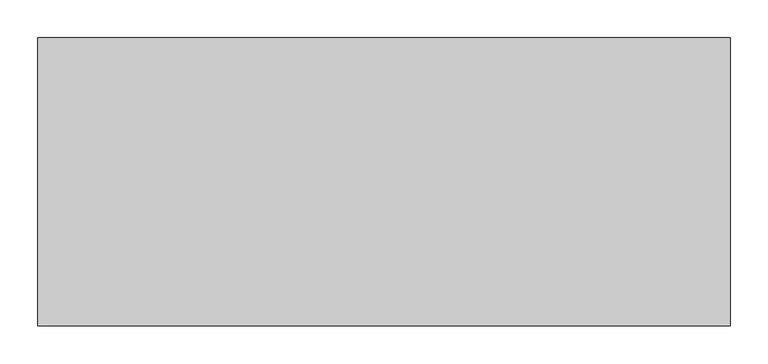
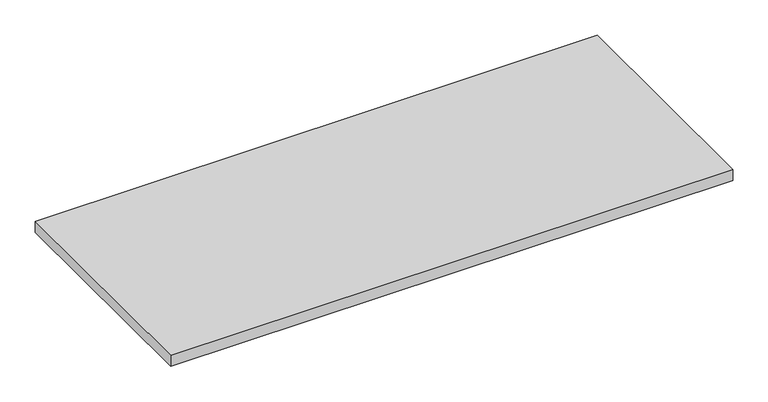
"""IFC4 building model written with IfcOpenShell, lengths in millimetres: furniture geometry, Steelcase - Universal Storage - Adjustable Steel Standard Shelf : 15D x 36W."""

from ifc_helpers import new_model, si_unit, frame, origin, place, context, project, spatial, polyline, outline, extrude, source, transform, mapped, element, save


def furniture_5fcd5357(model_context):
    return source(origin(), model_context, "Body", "SweptSolid", [
        extrude(outline(polyline([(914.4, 0.0), (914.4, -381.0), (0.0, -381.0), (0.0, 0.0), (914.4, 0.0)])), frame((0.0, 0.0, 285.75), z_axis=(0.0, 0.0, 1.0), x_axis=(1.0, 0.0, 0.0)), (0.0, 0.0, 1.0), 19.05),
    ])


if __name__ == "__main__":
    model = new_model("IFC4")
    model_context = context("Model", 3, world=origin())
    ifc_project = project(units=[si_unit("LENGTHUNIT", "METRE", prefix="MILLI")], contexts=[model_context])
    site = spatial("IfcSite", under=ifc_project)
    building = spatial("IfcBuilding", under=site)
    placement = place(None, origin())
    furniture_shape = furniture_5fcd5357(model_context)
    element("IfcFurniture", 1, ObjectType="Steelcase - Universal Storage - Adjustable Steel Standard Shelf : 15D x 36W", at=placement, inside=building, context=model_context, shape_type="MappedRepresentation", body=[
        mapped(furniture_shape, transform((0.0, 0.0, 0.0), x_axis=(1.0, 0.0, 0.0), y_axis=(0.0, 1.0, 0.0), z_axis=(0.0, 0.0, 1.0))),
    ])
    save(model, "model.ifc")
